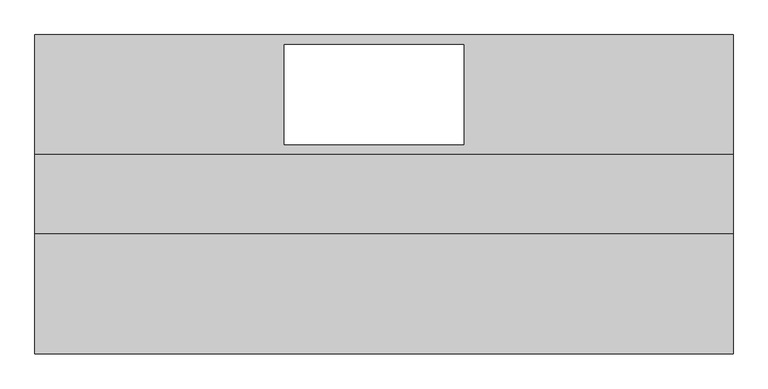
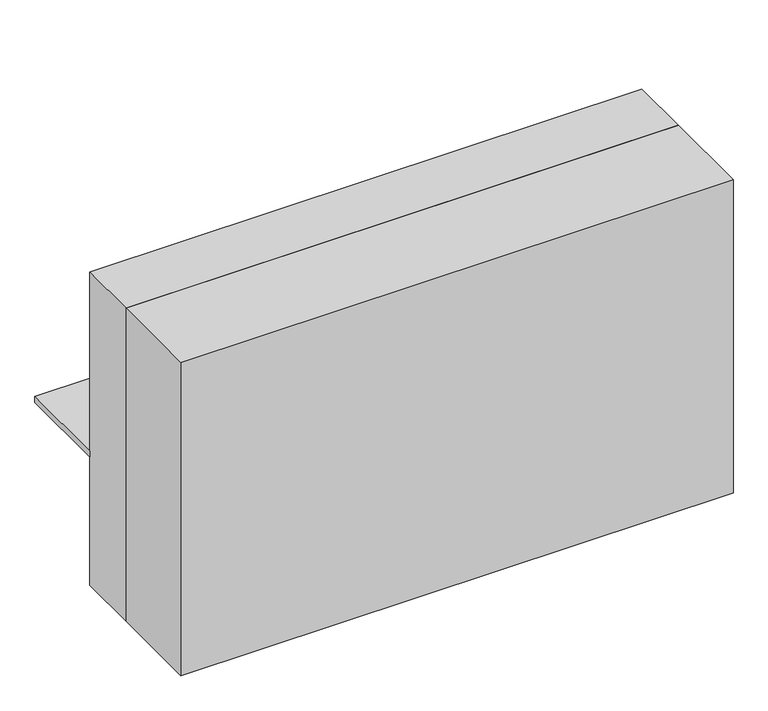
"""IFC4 building model written with IfcOpenShell, lengths in millimetres: proxy geometry, BIMHealth-Kitchen_worktop-LOD2A-v1 : BIMHealth-Kitchen_worktop-LOD2A-v1."""

import ifcopenshell
import ifcopenshell.guid

model = None  # the IFC model being written
_history = None  # IfcOwnerHistory: only IFC2X3 demands one
_inside = {}  # id of a spatial element -> (the spatial element, [elements in it])
_under = {}  # id of a project, library or spatial element -> (it, [spatial elements below it])
_declared = {}  # id of a project -> (the project, [libraries it declares])
_typed = {}  # id of a type object -> (the type object, [elements of that type])
_made_of = {}  # id of a material, layer set ... -> (it, [elements and type objects made of it])


def new_model(schema):
    """Start an empty IFC model of exactly this schema.

    Asked for "IFC4X3", IfcOpenShell would pick the latest addendum, in which some entities
    have other attributes; the version numbers below select the first issue.
    IFC2X3 requires an IfcOwnerHistory on every rooted entity: one is made here for all.
    """
    global model, _history
    if schema == "IFC4X3":
        model = ifcopenshell.file(schema_version=(4, 3, 0, 0))
    else:
        model = ifcopenshell.file(schema=schema)
    _inside.clear()
    _under.clear()
    _declared.clear()
    _typed.clear()
    _made_of.clear()
    _history = None
    if model.schema == "IFC2X3":
        org = make("IfcOrganization", Name="unknown")
        user = make(
            "IfcPersonAndOrganization",
            ThePerson=make("IfcPerson", FamilyName="unknown"),
            TheOrganization=org,
        )
        app = make(
            "IfcApplication",
            ApplicationDeveloper=org,
            Version="unknown",
            ApplicationFullName="unknown",
            ApplicationIdentifier="unknown",
        )
        _history = make(
            "IfcOwnerHistory",
            OwningUser=user,
            OwningApplication=app,
            ChangeAction="ADDED",
            CreationDate=0,
        )
    return model


def make(cls, **values):
    """One entity of the class cls with the attributes given. An attribute that is None is left unset."""
    return model.create_entity(
        cls, **{name: value for name, value in values.items() if value is not None}
    )


def rooted(cls, **values):
    """An entity with a GlobalId (a new one), such as an element, a storey or a relation."""
    return make(cls, GlobalId=ifcopenshell.guid.new(), OwnerHistory=_history, **values)


def si_unit(unit_type, name, prefix=None):
    """IfcSIUnit, for example si_unit("LENGTHUNIT", "METRE", prefix="MILLI")."""
    return make("IfcSIUnit", UnitType=unit_type, Prefix=prefix, Name=name)


def assignment(units):
    """IfcUnitAssignment: the units of a project."""
    return None if units is None else make("IfcUnitAssignment", Units=units)


def point(xyz):
    """IfcCartesianPoint."""
    return None if xyz is None else make("IfcCartesianPoint", Coordinates=xyz)


def direction(xyz):
    """IfcDirection."""
    return None if xyz is None else make("IfcDirection", DirectionRatios=xyz)


def frame(location, z_axis=None, x_axis=None):
    """IfcAxis2Placement3D, a coordinate frame: its origin and axes. An axis left out is left unset."""
    return make(
        "IfcAxis2Placement3D",
        Location=point(location),
        Axis=direction(z_axis),
        RefDirection=direction(x_axis),
    )


def origin():
    """The frame at (0, 0, 0) with its axes left unset."""
    return frame((0.0, 0.0, 0.0))


def origin_with_axes():
    """The frame at (0, 0, 0) with the z axis (0, 0, 1) and the x axis (1, 0, 0) written out."""
    return frame((0.0, 0.0, 0.0), z_axis=(0.0, 0.0, 1.0), x_axis=(1.0, 0.0, 0.0))


def place(relative_to, where):
    """IfcLocalPlacement: puts the frame where relative to a parent placement (None: the world)."""
    return make(
        "IfcLocalPlacement", PlacementRelTo=relative_to, RelativePlacement=where
    )


def context(
    kind, dimensions, precision=None, world=None, true_north=None, identifier=None
):
    """IfcGeometricRepresentationContext, for example the 3D "Model" context."""
    return make(
        "IfcGeometricRepresentationContext",
        ContextIdentifier=identifier,
        ContextType=kind,
        CoordinateSpaceDimension=dimensions,
        Precision=precision,
        WorldCoordinateSystem=world,
        TrueNorth=true_north,
    )


def project(units=None, contexts=None):
    """IfcProject with its units and contexts."""
    return rooted(
        "IfcProject",
        Name="project",
        RepresentationContexts=contexts,
        UnitsInContext=assignment(units),
    )


def spatial(cls, under=None, at=None, **own):
    """A site, building, storey or space (cls), placed at a placement, below another one or the project."""
    s = rooted(cls, ObjectPlacement=at, **own)
    if under is not None:
        _under.setdefault(under.id(), (under, []))[1].append(s)
    return s


def polyline(points):
    """IfcPolyline through the points."""
    return make("IfcPolyline", Points=[point(p) for p in points])


def outline(outer, holes=None, kind="AREA"):
    """IfcArbitraryClosedProfileDef: a profile drawn as a closed curve; with holes, ...WithVoids."""
    if holes is None:
        return make("IfcArbitraryClosedProfileDef", ProfileType=kind, OuterCurve=outer)
    return make(
        "IfcArbitraryProfileDefWithVoids",
        ProfileType=kind,
        OuterCurve=outer,
        InnerCurves=holes,
    )


def extrude(swept, where, along, depth):
    """IfcExtrudedAreaSolid: the profile swept, set in the frame where, extruded along a direction by depth."""
    return make(
        "IfcExtrudedAreaSolid",
        SweptArea=swept,
        Position=where,
        ExtrudedDirection=direction(along),
        Depth=depth,
    )


def shape(context_of_items, identifier, shape_type, items):
    """IfcShapeRepresentation: the items that make up one representation, for example the "Body"."""
    return make(
        "IfcShapeRepresentation",
        ContextOfItems=context_of_items,
        RepresentationIdentifier=identifier,
        RepresentationType=shape_type,
        Items=items,
    )


def source(mapping_origin, context_of_items, identifier, shape_type, items):
    """IfcRepresentationMap: a shape defined once, which mapped items show again and again."""
    return make(
        "IfcRepresentationMap",
        MappingOrigin=mapping_origin,
        MappedRepresentation=shape(context_of_items, identifier, shape_type, items),
    )


def transform(
    local_origin,
    x_axis=None,
    y_axis=None,
    z_axis=None,
    scale=None,
    scale2=None,
    scale3=None,
    uniform=True,
):
    """IfcCartesianTransformationOperator3D, or its non-uniform kind. x_axis, y_axis, z_axis: its Axis1, 2, 3."""
    if uniform:
        return make(
            "IfcCartesianTransformationOperator3D",
            Axis1=direction(x_axis),
            Axis2=direction(y_axis),
            LocalOrigin=point(local_origin),
            Scale=scale,
            Axis3=direction(z_axis),
        )
    return make(
        "IfcCartesianTransformationOperator3DnonUniform",
        Axis1=direction(x_axis),
        Axis2=direction(y_axis),
        LocalOrigin=point(local_origin),
        Scale=scale,
        Axis3=direction(z_axis),
        Scale2=scale2,
        Scale3=scale3,
    )


def mapped(mapping_source, mapping_target):
    """IfcMappedItem: shows the shape of a source again, moved by a transform."""
    return make(
        "IfcMappedItem", MappingSource=mapping_source, MappingTarget=mapping_target
    )


def made_of(thing, what):
    """Note that an element or type object is made of a material, layer set ...; save() writes the relation."""
    if what is not None:
        _made_of.setdefault(what.id(), (what, []))[1].append(thing)
    return thing


def element(
    cls,
    number,
    at=None,
    inside=None,
    cuts=None,
    type_object=None,
    material=None,
    context=None,
    identifier="Body",
    shape_type=None,
    held_by="IfcProductDefinitionShape",
    body=None,
    shapes=None,
    **own,
):
    """One element of the class cls, such as IfcWall. Its Tag is "e" and its number.

    at: its placement. inside: the storey or other place that contains it. cuts: it is an
    opening in that element (IfcRelVoidsElement). A single representation is given by context,
    identifier, shape_type and body (its items); several are given by shapes. held_by: the class
    of the entity that holds the representations. save() writes the other relations.
    """
    e = rooted(cls, Tag="e%d" % number, ObjectPlacement=at, **own)
    if body is not None:
        shapes = [shape(context, identifier, shape_type, body)]
    if shapes is not None:
        e.Representation = make(held_by, Representations=shapes)
    if inside is not None:
        _inside.setdefault(inside.id(), (inside, []))[1].append(e)
    if cuts is not None:
        rooted(
            "IfcRelVoidsElement", RelatingBuildingElement=cuts, RelatedOpeningElement=e
        )
    if type_object is not None:
        _typed.setdefault(type_object.id(), (type_object, []))[1].append(e)
    return made_of(e, material)


def aggregate(whole, parts):
    """IfcRelAggregates: a whole, such as a stair, and the parts it consists of."""
    return rooted("IfcRelAggregates", RelatingObject=whole, RelatedObjects=parts)


def save(model, path):
    """Write the relations noted so far, then the file.

    IfcRelAggregates (storeys below a building ...), IfcRelContainedInSpatialStructure (elements
    in a storey), IfcRelDefinesByType, IfcRelAssociatesMaterial and IfcRelDeclares: one each for
    every whole, place, type object, material and project.
    """
    for whole, parts in _under.values():
        aggregate(whole, parts)
    for where, things in _inside.values():
        rooted(
            "IfcRelContainedInSpatialStructure",
            RelatedElements=things,
            RelatingStructure=where,
        )
    for kind, things in _typed.values():
        rooted("IfcRelDefinesByType", RelatedObjects=things, RelatingType=kind)
    for what, things in _made_of.values():
        rooted("IfcRelAssociatesMaterial", RelatedObjects=things, RelatingMaterial=what)
    for by, libraries in _declared.values():
        rooted("IfcRelDeclares", RelatingContext=by, RelatedDefinitions=libraries)
    model.write(path)


def generic_models_63e8a5fc(model_context):
    return source(origin(), model_context, "Body", "SweptSolid", [
        extrude(outline(polyline([(3500.0, 0.0), (3500.0, -600.0), (0.0, -600.0), (0.0, 0.0), (3500.0, 0.0)]), holes=[polyline([(2149.6744807, -50.0), (1249.6744807, -50.0), (1249.6744807, -550.0), (2149.6744807, -550.0), (2149.6744807, -50.0)])]), frame((0.0, 0.0, 860.0), z_axis=(0.0, 0.0, 1.0), x_axis=(1.0, 0.0, 0.0)), (0.0, 0.0, 1.0), 40.0),
        extrude(outline(polyline([(3500.0, -1000.0), (3500.0, -1600.0), (0.0, -1600.0), (0.0, -1000.0), (3500.0, -1000.0)])), origin_with_axes(), (0.0, 0.0, 1.0), 2100.0),
        extrude(outline(polyline([(3500.0, -600.0), (3500.0, -1000.0), (0.0, -1000.0), (0.0, -600.0), (3500.0, -600.0)])), origin_with_axes(), (0.0, 0.0, 1.0), 2100.0),
    ])


if __name__ == "__main__":
    model = new_model("IFC4")
    model_context = context("Model", 3, world=origin())
    ifc_project = project(units=[si_unit("LENGTHUNIT", "METRE", prefix="MILLI")], contexts=[model_context])
    site = spatial("IfcSite", under=ifc_project)
    building = spatial("IfcBuilding", under=site)
    placement = place(None, origin())
    generic_models_shape = generic_models_63e8a5fc(model_context)
    element("IfcBuildingElementProxy", 1, Name="BIMHealth-Kitchen_worktop-LOD2A-v1 : BIMHealth-Kitchen_worktop-LOD2A-v1", ObjectType="BIMHealth-Kitchen_worktop-LOD2A-v1 : BIMHealth-Kitchen_worktop-LOD2A-v1", at=placement, inside=building, context=model_context, shape_type="MappedRepresentation", body=[
        mapped(generic_models_shape, transform((0.0, 0.0, 0.0), x_axis=(1.0, 0.0, 0.0), y_axis=(0.0, 1.0, 0.0), z_axis=(0.0, 0.0, 1.0))),
    ])
    save(model, "model.ifc")
